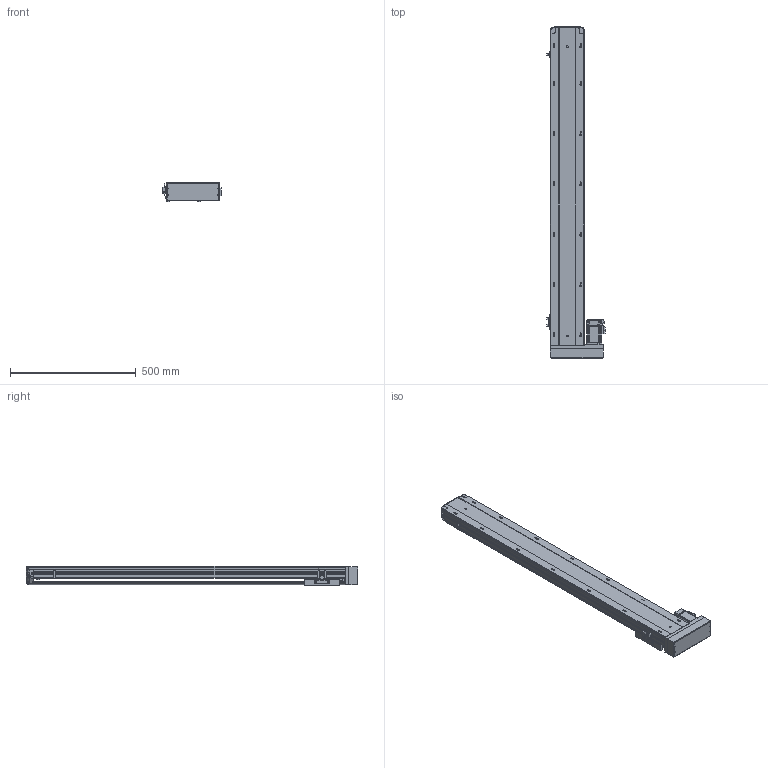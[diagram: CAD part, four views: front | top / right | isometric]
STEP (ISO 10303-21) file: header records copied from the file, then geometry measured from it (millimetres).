
FILE_DESCRIPTION (( 'STEP AP203' ), '1' );
FILE_NAME ('105.STEP', '2022-07-01T10:15:16', ( '' ), ( '' ), 'SwSTEP 2.0', 'SolidWorks 2016', '' );
FILE_SCHEMA (( 'CONFIG_CONTROL_DESIGN' ));
Length unit declared in the file: millimetre
Products named in the file (9): BTH14-BR-04; BTH14-BR-01; BTH14-BR-HZ; BTH14-11-BL-1; BTH14-BR-P20; BTH14-BL-BM-BR-菁釱; 蚾饜极2-BR; 105; BTH14-06-BR-T40(1)-1
Assembly tree (10 placements, depth 3):
  105
    BTH14-BL-BM-BR-菁釱
    BTH14-BR-01
    BTH14-BR-04  x3
    BTH14-BR-HZ
    BTH14-BR-P20
    蚾饜极2-BR
      BTH14-06-BR-T40(1)-1
      BTH14-11-BL-1
Bounding box: 231.15 x 1319.21 x 78 mm (x, y, z)
Volume: 5613116.1 mm3; surface area: 1284237.5 mm2
Topology: 13 solids, 13 shells, 1861 faces, 5032 edges, 3236 vertices
Faces by surface type: plane 975, cylinder 542, bspline 175, cone 118, torus 51
Entity records: 63039 total; most frequent: CARTESIAN_POINT 21407, ORIENTED_EDGE 8876, DIRECTION 7931, EDGE_CURVE 4438, VERTEX_POINT 2876, AXIS2_PLACEMENT_3D 2712, LINE 2507, VECTOR 2507
